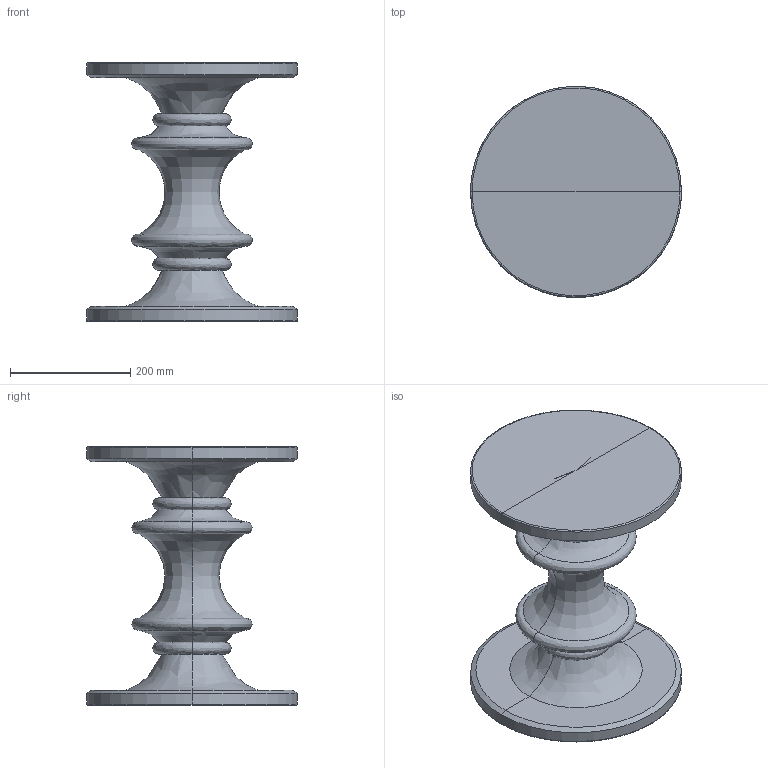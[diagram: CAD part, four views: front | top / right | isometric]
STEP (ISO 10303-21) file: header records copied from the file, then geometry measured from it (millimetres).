
FILE_DESCRIPTION(/* description */ (''),/* implementation_level */ '2;1');
FILE_NAME(/* name */ 'KINOSH~1',/* time_stamp */ '2018-07-03T09:53:40+09:00',/* author */ (''),/* organization */ (''),/* preprocessor_version */ 'ST-DEVELOPER v15',/* originating_system */ '',/* authorisation */ '');
FILE_SCHEMA (('AUTOMOTIVE_DESIGN'));
Length unit declared in the file: millimetre
Products named in the file (1): Document
Bounding box: 350 x 349.75 x 430 mm (x, y, z)
Volume: 10475766.5 mm3; surface area: 607846.6 mm2
Topology: 1 solids, 1 shells, 38 faces, 78 edges, 38 vertices
Faces by surface type: bspline 38
Entity records: 1487 total; most frequent: CARTESIAN_POINT 1072, ORIENTED_EDGE 148, EDGE_CURVE 74, ADVANCED_FACE 38, FACE_OUTER_BOUND 38, EDGE_LOOP 38, VERTEX_POINT 38, B_SPLINE_CURVE_WITH_KNOTS 16
